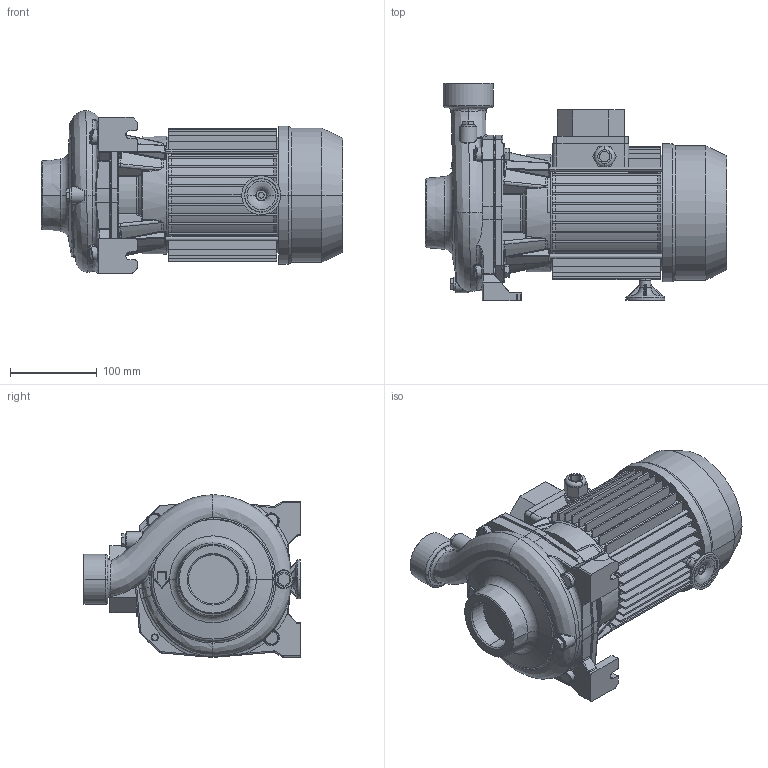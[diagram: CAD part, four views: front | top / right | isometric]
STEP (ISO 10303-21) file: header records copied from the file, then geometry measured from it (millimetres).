
FILE_DESCRIPTION((''),'2;1');
FILE_NAME('CMB_150T_IE2_ASM','2014-10-03T',('Rosa'),('"Ebara Pumps Europe +39.444.706811"'),'PRO/ENGINEER BY PARAMETRIC TECHNOLOGY CORPORATION, 2009360','PRO/ENGINEER BY PARAMETRIC TECHNOLOGY CORPORATION, 2009360','');
FILE_SCHEMA(('AUTOMOTIVE_DESIGN { 1 0 10303 214 1 1 1 1 }'));
Length unit declared in the file: millimetre
Products named in the file (5): MEC_80X100_IE2; 80536; 20521; 72001; CMB_150T_IE2_ASM
Assembly tree (4 placements, depth 2):
  CMB_150T_IE2_ASM
    MEC_80X100_IE2
    80536
    20521
    72001
Bounding box: 348 x 251.5 x 187.58 mm (x, y, z)
Volume: 4586584 mm3; surface area: 542412.5 mm2
Topology: 4 solids, 10 shells, 1346 faces, 3220 edges, 1921 vertices
Faces by surface type: plane 418, bspline 384, cylinder 312, cone 112, torus 100, sphere 20
Entity records: 69432 total; most frequent: CARTESIAN_POINT 30021, ORIENTED_EDGE 6412, DIRECTION 5422, EDGE_CURVE 3214, PRESENTATION_STYLE_ASSIGNMENT 2520, STYLED_ITEM 2520, CURVE_STYLE 2295, AXIS2_PLACEMENT_3D 2148
